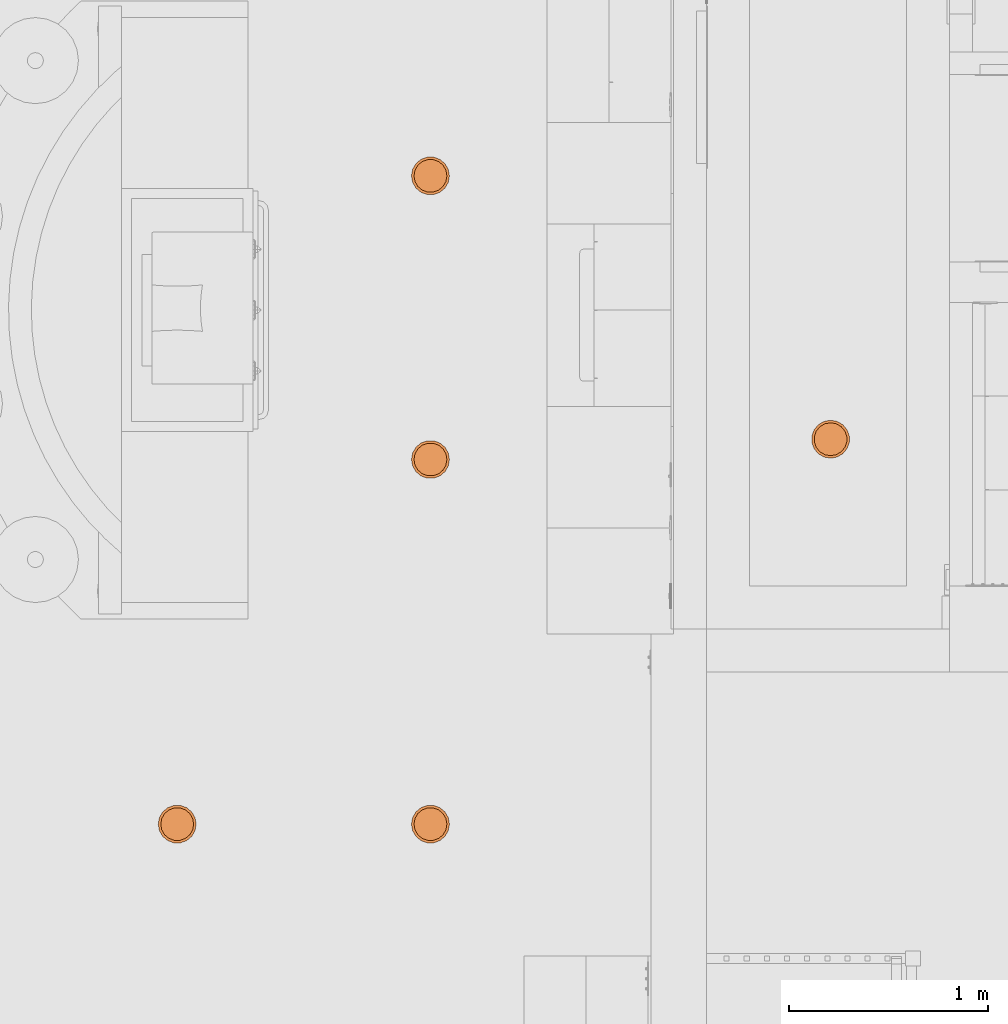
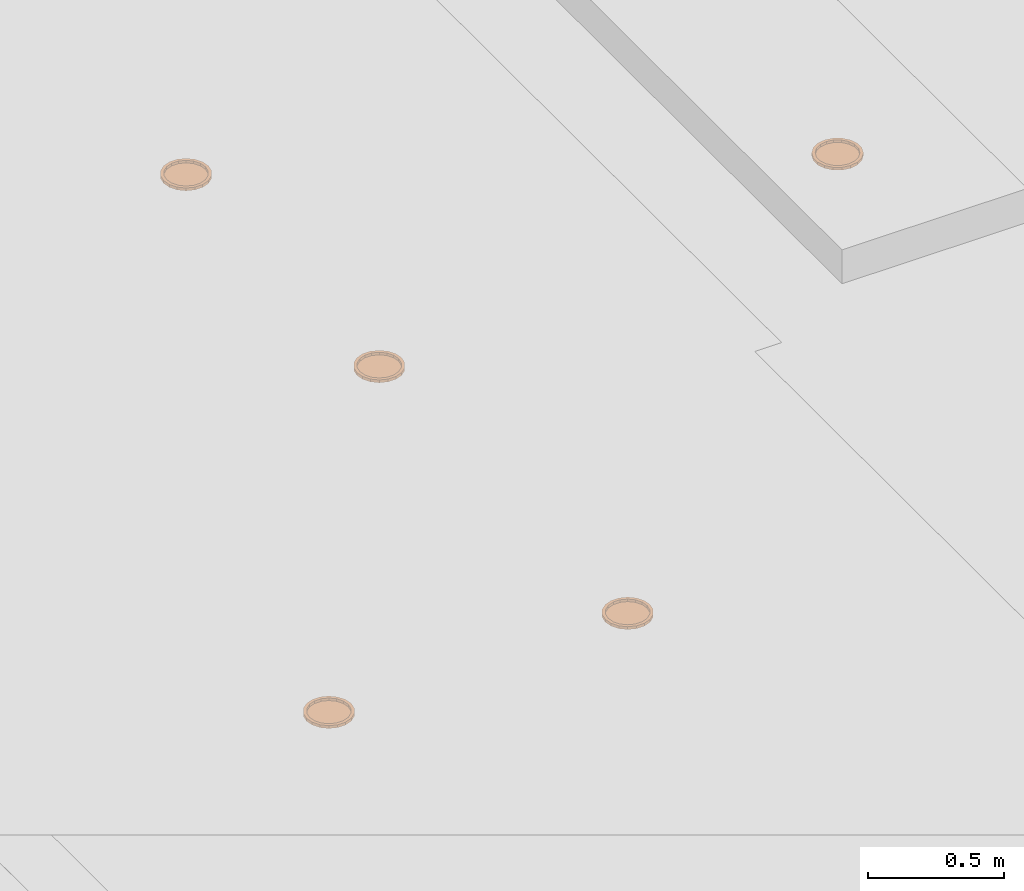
# One storey, part 73 of 103: 5 proxies.
"""IFC2X3 building model written with IfcOpenShell, lengths in inches."""

from ifc_helpers import new_model, entity, si_unit, converted_unit, derived_unit, money_unit, direction, frame, origin_with_axes, place, context, subcontext, project, spatial, open_shell, faceted_brep, surface_model, source, transform, mapped, type_object, element, save


model = new_model("IFC2X3")

# Units and contexts
model_context = context("Model", 3, precision=0.00039370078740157, world=origin_with_axes(), true_north=direction((0.0, 1.0)))
plan_context = context("Plan", 3, precision=0.00039370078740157, world=origin_with_axes(), true_north=direction((0.0, 1.0)))
body_context = subcontext(model_context, "Body", "Model", "MODEL_VIEW")
ifc_project = project(units=[converted_unit("LENGTHUNIT", "INCH", entity("IfcPositiveLengthMeasure", 0.0254), si_unit("LENGTHUNIT", "METRE"), dimensions=[1, 0, 0, 0, 0, 0, 0]), converted_unit("AREAUNIT", "SQUARE_FOOT", entity("IfcPositiveLengthMeasure", 0.09290304), si_unit("AREAUNIT", "SQUARE_METRE"), dimensions=[2, 0, 0, 0, 0, 0, 0]), si_unit("PLANEANGLEUNIT", "RADIAN"), si_unit("SOLIDANGLEUNIT", "STERADIAN"), money_unit("USD"), converted_unit("TIMEUNIT", "Year", entity("IfcTimeMeasure", 31557600.0), si_unit("TIMEUNIT", "SECOND"), dimensions=[0, 0, 1, 0, 0, 0, 0]), si_unit("MASSUNIT", "GRAM", prefix="KILO"), si_unit("THERMODYNAMICTEMPERATUREUNIT", "DEGREE_CELSIUS"), si_unit("LUMINOUSINTENSITYUNIT", "LUMEN"), si_unit("ENERGYUNIT", "JOULE", prefix="MEGA"), derived_unit("SPECIFICHEATCAPACITYUNIT", [(si_unit("ENERGYUNIT", "JOULE"), 1), (si_unit("MASSUNIT", "GRAM", prefix="KILO"), -1), (si_unit("THERMODYNAMICTEMPERATUREUNIT", "KELVIN"), -1)])], contexts=[model_context, plan_context])

# Site, building, storey
site_placement = place(None, origin_with_axes())
site = spatial("IfcSite", under=ifc_project, at=site_placement, Name="Site", CompositionType="ELEMENT")
building_placement = place(site_placement, origin_with_axes())
building = spatial("IfcBuilding", under=site, at=building_placement, Name="Building", CompositionType="ELEMENT")
storey_placement = place(building_placement, frame((0.0, 0.0, 127.9999999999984), z_axis=(0.0, 0.0, 1.0), x_axis=(1.0, 0.0, 0.0)))
storey = spatial("IfcBuildingStorey", under=building, at=storey_placement, Name="Second Floor", CompositionType="ELEMENT", Elevation=128.0)

# Proxies
building_element_proxy_type = type_object("IfcBuildingElementProxyType", Name="Recessed Spot", PredefinedType="NOTDEFINED")
shared_shape_1 = source(origin_with_axes(), body_context, "Body", "SurfaceModel", [
    faceted_brep([(3.749999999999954, 0.0, -0.4999999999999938), (3.523847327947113, 1.282575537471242, -0.4999999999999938), (3.523847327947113, 1.282575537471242, 0.0), (3.749999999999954, 0.0, 0.0), (3.523847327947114, -1.282575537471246, -0.4999999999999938), (2.872666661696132, -2.410453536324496, -0.4999999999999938), (1.874999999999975, -3.247595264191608, -0.4999999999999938), (0.6511806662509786, -3.693029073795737, -0.4999999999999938), (-0.6511806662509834, -3.693029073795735, -0.4999999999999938), (-1.87499999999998, -3.247595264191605, -0.4999999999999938), (-2.872666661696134, -2.410453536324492, -0.4999999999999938), (-3.523847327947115, -1.282575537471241, -0.4999999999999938), (-3.749999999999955, 0.0, -0.4999999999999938), (-3.523847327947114, 1.282575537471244, -0.4999999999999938), (-2.872666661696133, 2.410453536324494, -0.4999999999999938), (-1.874999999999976, 3.247595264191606, -0.4999999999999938), (-0.6511806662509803, 3.693029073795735, -0.4999999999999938), (0.6511806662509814, 3.693029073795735, -0.4999999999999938), (1.874999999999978, 3.247595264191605, -0.4999999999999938), (2.872666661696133, 2.410453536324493, -0.4999999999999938), (3.24999999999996, 0.0, -0.4999999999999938), (3.054001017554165, 1.11156546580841, -0.4999999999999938), (2.489644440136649, 2.089059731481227, -0.4999999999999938), (1.62499999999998, 2.814582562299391, -0.4999999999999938), (0.5643565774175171, 3.200625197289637, -0.4999999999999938), (-0.5643565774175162, 3.200625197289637, -0.4999999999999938), (-1.62499999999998, 2.814582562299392, -0.4999999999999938), (-2.489644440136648, 2.089059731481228, -0.4999999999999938), (-3.054001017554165, 1.111565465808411, -0.4999999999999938), (-3.24999999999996, 0.0, -0.4999999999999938), (-3.054001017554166, -1.111565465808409, -0.4999999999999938), (-2.48964444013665, -2.089059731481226, -0.4999999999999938), (-1.624999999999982, -2.814582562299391, -0.4999999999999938), (-0.5643565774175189, -3.200625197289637, -0.4999999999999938), (0.5643565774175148, -3.200625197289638, -0.4999999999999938), (1.624999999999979, -2.814582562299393, -0.4999999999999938), (2.489644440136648, -2.08905973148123, -0.4999999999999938), (3.054001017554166, -1.111565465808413, -0.4999999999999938), (2.872666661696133, 2.410453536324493, 0.0), (1.874999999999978, 3.247595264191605, 0.0), (0.6511806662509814, 3.693029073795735, 0.0), (-0.6511806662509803, 3.693029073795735, 0.0), (-1.874999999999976, 3.247595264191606, 0.0), (-2.872666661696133, 2.410453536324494, 0.0), (-3.523847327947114, 1.282575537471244, 0.0), (-3.749999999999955, 0.0, 0.0), (-3.523847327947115, -1.282575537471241, 0.0), (-2.872666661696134, -2.410453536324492, 0.0), (-1.87499999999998, -3.247595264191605, 0.0), (-0.6511806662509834, -3.693029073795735, 0.0), (0.6511806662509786, -3.693029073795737, 0.0), (1.874999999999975, -3.247595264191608, 0.0), (2.872666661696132, -2.410453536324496, 0.0), (3.523847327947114, -1.282575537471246, 0.0), (3.24999999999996, 0.0, 0.0), (3.054001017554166, -1.111565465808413, 0.0), (2.489644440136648, -2.08905973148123, 0.0), (1.624999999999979, -2.814582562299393, 0.0), (0.5643565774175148, -3.200625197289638, 0.0), (-0.5643565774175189, -3.200625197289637, 0.0), (-1.624999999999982, -2.814582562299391, 0.0), (-2.48964444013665, -2.089059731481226, 0.0), (-3.054001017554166, -1.111565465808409, 0.0), (-3.24999999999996, 0.0, 0.0), (-3.054001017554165, 1.111565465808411, 0.0), (-2.489644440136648, 2.089059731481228, 0.0), (-1.62499999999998, 2.814582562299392, 0.0), (-0.5643565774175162, 3.200625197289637, 0.0), (0.5643565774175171, 3.200625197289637, 0.0), (1.62499999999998, 2.814582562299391, 0.0), (2.489644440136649, 2.089059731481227, 0.0), (3.054001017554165, 1.11156546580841, 0.0)], [[[0, 1, 2, 3]], [[0, 4, 5, 6, 7, 8, 9, 10, 11, 12, 13, 14, 15, 16, 17, 18, 19, 1], [20, 21, 22, 23, 24, 25, 26, 27, 28, 29, 30, 31, 32, 33, 34, 35, 36, 37]], [[1, 19, 38, 2]], [[3, 2, 38, 39, 40, 41, 42, 43, 44, 45, 46, 47, 48, 49, 50, 51, 52, 53], [54, 55, 56, 57, 58, 59, 60, 61, 62, 63, 64, 65, 66, 67, 68, 69, 70, 71]], [[4, 0, 3, 53]], [[5, 4, 53, 52]], [[6, 5, 52, 51]], [[7, 6, 51, 50]], [[8, 7, 50, 49]], [[9, 8, 49, 48]], [[10, 9, 48, 47]], [[11, 10, 47, 46]], [[12, 11, 46, 45]], [[13, 12, 45, 44]], [[14, 13, 44, 43]], [[15, 14, 43, 42]], [[16, 15, 42, 41]], [[17, 16, 41, 40]], [[18, 17, 40, 39]], [[19, 18, 39, 38]], [[21, 20, 54, 71]], [[22, 21, 71, 70]], [[23, 22, 70, 69]], [[24, 23, 69, 68]], [[25, 24, 68, 67]], [[26, 25, 67, 66]], [[27, 26, 66, 65]], [[28, 27, 65, 64]], [[29, 28, 64, 63]], [[30, 29, 63, 62]], [[31, 30, 62, 61]], [[32, 31, 61, 60]], [[33, 32, 60, 59]], [[34, 33, 59, 58]], [[35, 34, 58, 57]], [[36, 35, 57, 56]], [[37, 36, 56, 55]], [[20, 37, 55, 54]]]),
    surface_model("IfcShellBasedSurfaceModel", [(3.24999999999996, 0.0, -0.4460629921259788), (3.054001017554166, -1.111565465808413, -0.4460629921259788), (2.489644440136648, -2.08905973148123, -0.4460629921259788), (1.624999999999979, -2.814582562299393, -0.4460629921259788), (0.5643565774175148, -3.200625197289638, -0.4460629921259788), (-0.5643565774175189, -3.200625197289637, -0.4460629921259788), (-1.624999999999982, -2.814582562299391, -0.4460629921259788), (-2.48964444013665, -2.089059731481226, -0.4460629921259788), (-3.054001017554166, -1.111565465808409, -0.4460629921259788), (-3.24999999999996, 0.0, -0.4460629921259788), (-3.054001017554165, 1.111565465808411, -0.4460629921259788), (-2.489644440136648, 2.089059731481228, -0.4460629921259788), (-1.62499999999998, 2.814582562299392, -0.4460629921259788), (-0.5643565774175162, 3.200625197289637, -0.4460629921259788), (0.5643565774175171, 3.200625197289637, -0.4460629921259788), (1.62499999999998, 2.814582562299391, -0.4460629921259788), (2.489644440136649, 2.089059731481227, -0.4460629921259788), (3.054001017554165, 1.11156546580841, -0.4460629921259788)], [open_shell([[[0, 1, 2, 3, 4, 5, 6, 7, 8, 9, 10, 11, 12, 13, 14, 15, 16, 17]]])]),
])
proxy_placement = place(storey_placement, frame((185.9999999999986, 234.4999999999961, 125.9999999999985), z_axis=(0.0, 0.0, 1.0), x_axis=(-9.406550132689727e-08, 0.9999999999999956, 0.0)))
element("IfcBuildingElementProxy", 1, at=proxy_placement, inside=storey, type_object=building_element_proxy_type, Name="L-03", context=body_context, shape_type="MappedRepresentation", body=[
    mapped(shared_shape_1, transform((0.0, 0.0, 0.0))),
])
shared_shape_2 = source(origin_with_axes(), body_context, "Body", "SurfaceModel", [
    faceted_brep([(3.749999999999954, 0.0, -0.4999999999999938), (3.523847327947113, 1.282575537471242, -0.4999999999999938), (3.523847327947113, 1.282575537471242, 0.0), (3.749999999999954, 0.0, 0.0), (3.523847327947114, -1.282575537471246, -0.4999999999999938), (2.872666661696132, -2.410453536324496, -0.4999999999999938), (1.874999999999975, -3.247595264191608, -0.4999999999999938), (0.6511806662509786, -3.693029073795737, -0.4999999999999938), (-0.6511806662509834, -3.693029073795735, -0.4999999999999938), (-1.87499999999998, -3.247595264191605, -0.4999999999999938), (-2.872666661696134, -2.410453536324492, -0.4999999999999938), (-3.523847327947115, -1.282575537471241, -0.4999999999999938), (-3.749999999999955, 0.0, -0.4999999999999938), (-3.523847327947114, 1.282575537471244, -0.4999999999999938), (-2.872666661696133, 2.410453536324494, -0.4999999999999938), (-1.874999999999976, 3.247595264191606, -0.4999999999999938), (-0.6511806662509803, 3.693029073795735, -0.4999999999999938), (0.6511806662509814, 3.693029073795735, -0.4999999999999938), (1.874999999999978, 3.247595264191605, -0.4999999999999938), (2.872666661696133, 2.410453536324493, -0.4999999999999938), (3.24999999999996, 0.0, -0.4999999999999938), (3.054001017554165, 1.11156546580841, -0.4999999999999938), (2.489644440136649, 2.089059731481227, -0.4999999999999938), (1.62499999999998, 2.814582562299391, -0.4999999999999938), (0.5643565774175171, 3.200625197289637, -0.4999999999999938), (-0.5643565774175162, 3.200625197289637, -0.4999999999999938), (-1.62499999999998, 2.814582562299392, -0.4999999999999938), (-2.489644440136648, 2.089059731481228, -0.4999999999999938), (-3.054001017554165, 1.111565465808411, -0.4999999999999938), (-3.24999999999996, 0.0, -0.4999999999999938), (-3.054001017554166, -1.111565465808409, -0.4999999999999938), (-2.48964444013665, -2.089059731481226, -0.4999999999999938), (-1.624999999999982, -2.814582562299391, -0.4999999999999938), (-0.5643565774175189, -3.200625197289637, -0.4999999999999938), (0.5643565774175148, -3.200625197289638, -0.4999999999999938), (1.624999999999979, -2.814582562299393, -0.4999999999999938), (2.489644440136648, -2.08905973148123, -0.4999999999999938), (3.054001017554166, -1.111565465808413, -0.4999999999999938), (2.872666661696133, 2.410453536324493, 0.0), (1.874999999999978, 3.247595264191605, 0.0), (0.6511806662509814, 3.693029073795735, 0.0), (-0.6511806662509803, 3.693029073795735, 0.0), (-1.874999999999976, 3.247595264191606, 0.0), (-2.872666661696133, 2.410453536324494, 0.0), (-3.523847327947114, 1.282575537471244, 0.0), (-3.749999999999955, 0.0, 0.0), (-3.523847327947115, -1.282575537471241, 0.0), (-2.872666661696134, -2.410453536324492, 0.0), (-1.87499999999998, -3.247595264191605, 0.0), (-0.6511806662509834, -3.693029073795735, 0.0), (0.6511806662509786, -3.693029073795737, 0.0), (1.874999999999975, -3.247595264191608, 0.0), (2.872666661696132, -2.410453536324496, 0.0), (3.523847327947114, -1.282575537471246, 0.0), (3.24999999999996, 0.0, 0.0), (3.054001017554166, -1.111565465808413, 0.0), (2.489644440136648, -2.08905973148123, 0.0), (1.624999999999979, -2.814582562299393, 0.0), (0.5643565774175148, -3.200625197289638, 0.0), (-0.5643565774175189, -3.200625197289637, 0.0), (-1.624999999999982, -2.814582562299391, 0.0), (-2.48964444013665, -2.089059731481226, 0.0), (-3.054001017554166, -1.111565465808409, 0.0), (-3.24999999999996, 0.0, 0.0), (-3.054001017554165, 1.111565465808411, 0.0), (-2.489644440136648, 2.089059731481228, 0.0), (-1.62499999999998, 2.814582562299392, 0.0), (-0.5643565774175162, 3.200625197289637, 0.0), (0.5643565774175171, 3.200625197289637, 0.0), (1.62499999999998, 2.814582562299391, 0.0), (2.489644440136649, 2.089059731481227, 0.0), (3.054001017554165, 1.11156546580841, 0.0)], [[[0, 1, 2, 3]], [[0, 4, 5, 6, 7, 8, 9, 10, 11, 12, 13, 14, 15, 16, 17, 18, 19, 1], [20, 21, 22, 23, 24, 25, 26, 27, 28, 29, 30, 31, 32, 33, 34, 35, 36, 37]], [[1, 19, 38, 2]], [[3, 2, 38, 39, 40, 41, 42, 43, 44, 45, 46, 47, 48, 49, 50, 51, 52, 53], [54, 55, 56, 57, 58, 59, 60, 61, 62, 63, 64, 65, 66, 67, 68, 69, 70, 71]], [[4, 0, 3, 53]], [[5, 4, 53, 52]], [[6, 5, 52, 51]], [[7, 6, 51, 50]], [[8, 7, 50, 49]], [[9, 8, 49, 48]], [[10, 9, 48, 47]], [[11, 10, 47, 46]], [[12, 11, 46, 45]], [[13, 12, 45, 44]], [[14, 13, 44, 43]], [[15, 14, 43, 42]], [[16, 15, 42, 41]], [[17, 16, 41, 40]], [[18, 17, 40, 39]], [[19, 18, 39, 38]], [[21, 20, 54, 71]], [[22, 21, 71, 70]], [[23, 22, 70, 69]], [[24, 23, 69, 68]], [[25, 24, 68, 67]], [[26, 25, 67, 66]], [[27, 26, 66, 65]], [[28, 27, 65, 64]], [[29, 28, 64, 63]], [[30, 29, 63, 62]], [[31, 30, 62, 61]], [[32, 31, 61, 60]], [[33, 32, 60, 59]], [[34, 33, 59, 58]], [[35, 34, 58, 57]], [[36, 35, 57, 56]], [[37, 36, 56, 55]], [[20, 37, 55, 54]]]),
    surface_model("IfcShellBasedSurfaceModel", [(3.24999999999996, 0.0, -0.4460629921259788), (3.054001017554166, -1.111565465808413, -0.4460629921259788), (2.489644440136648, -2.08905973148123, -0.4460629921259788), (1.624999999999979, -2.814582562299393, -0.4460629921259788), (0.5643565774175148, -3.200625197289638, -0.4460629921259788), (-0.5643565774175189, -3.200625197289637, -0.4460629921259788), (-1.624999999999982, -2.814582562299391, -0.4460629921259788), (-2.48964444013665, -2.089059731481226, -0.4460629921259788), (-3.054001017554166, -1.111565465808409, -0.4460629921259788), (-3.24999999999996, 0.0, -0.4460629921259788), (-3.054001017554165, 1.111565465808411, -0.4460629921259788), (-2.489644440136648, 2.089059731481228, -0.4460629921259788), (-1.62499999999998, 2.814582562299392, -0.4460629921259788), (-0.5643565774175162, 3.200625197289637, -0.4460629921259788), (0.5643565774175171, 3.200625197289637, -0.4460629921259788), (1.62499999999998, 2.814582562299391, -0.4460629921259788), (2.489644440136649, 2.089059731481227, -0.4460629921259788), (3.054001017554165, 1.11156546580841, -0.4460629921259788)], [open_shell([[[0, 1, 2, 3, 4, 5, 6, 7, 8, 9, 10, 11, 12, 13, 14, 15, 16, 17]]])]),
])
for number, where, z_axis, x_axis, name in (
    (2, (106.9999515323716, 158.5015251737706, 118.4999999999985), (0.0, 0.0, 1.0), (0.9999999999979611, 2.01938114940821e-06, 0.0), "L-03"),
    (3, (106.9996930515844, 286.5015251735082, 118.4999999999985), (0.0, 0.0, 1.0), (0.9999999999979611, 2.01938114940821e-06, 0.0), "L-03"),
    (4, (56.99995153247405, 158.5014242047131, 118.4999999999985), (0.0, 0.0, 1.0), (0.9999999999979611, 2.01938114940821e-06, 0.0), "L-03"),
    (5, (106.9998061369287, 230.501525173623, 118.4999999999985), (0.0, 0.0, 1.0), (0.9999999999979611, 2.01938114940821e-06, 0.0), "L-03"),
):
    element("IfcBuildingElementProxy", number, at=place(storey_placement, frame(where, z_axis=z_axis, x_axis=x_axis)), inside=storey, type_object=building_element_proxy_type, Name=name, context=body_context, shape_type="MappedRepresentation", body=[
        mapped(shared_shape_2, transform((0.0, 0.0, 0.0))),
    ])

save(model, "model.ifc")
